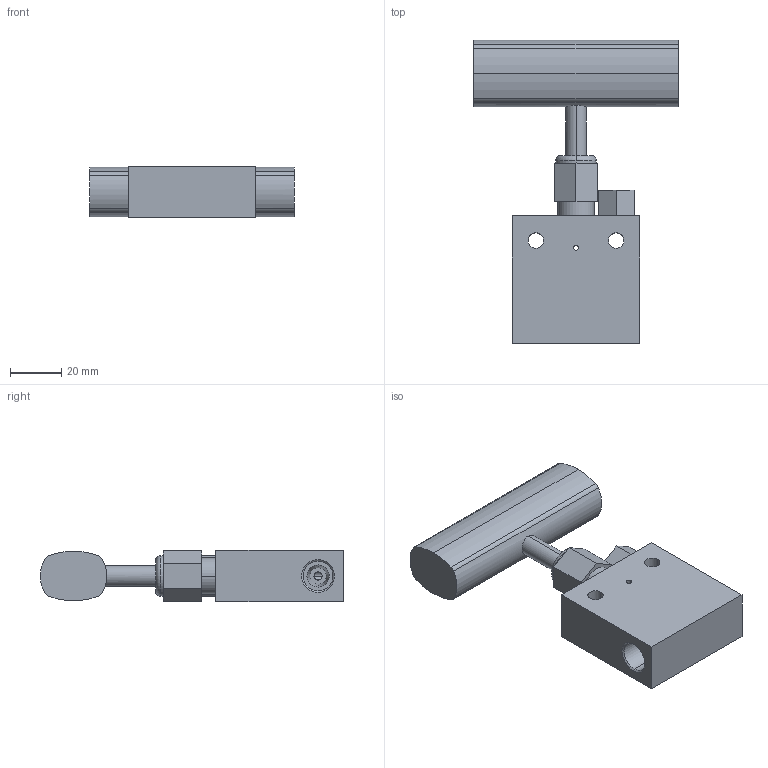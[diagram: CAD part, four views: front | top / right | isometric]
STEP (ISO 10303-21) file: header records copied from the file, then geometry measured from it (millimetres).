
FILE_DESCRIPTION (( 'STEP AP203' ), '1' );
FILE_NAME ('NV15VS04-S-00-00.STEP', '2023-02-22T08:04:16', ( 'USER' ), ( '' ), 'SwSTEP 2.0', 'SolidWorks 2020', '' );
FILE_SCHEMA (( 'CONFIG_CONTROL_DESIGN' ));
Length unit declared in the file: millimetre
Products named in the file (1): NV15VS04-S-00-00
Bounding box: 80 x 118.6 x 20 mm (x, y, z)
Volume: 87367.5 mm3; surface area: 20673.3 mm2
Topology: 1 solids, 1 shells, 86 faces, 203 edges, 130 vertices
Faces by surface type: cylinder 41, plane 31, cone 12, torus 2
Entity records: 2804 total; most frequent: CARTESIAN_POINT 668, DIRECTION 453, ORIENTED_EDGE 406, EDGE_CURVE 203, AXIS2_PLACEMENT_3D 175, VERTEX_POINT 130, EDGE_LOOP 107, VECTOR 103
